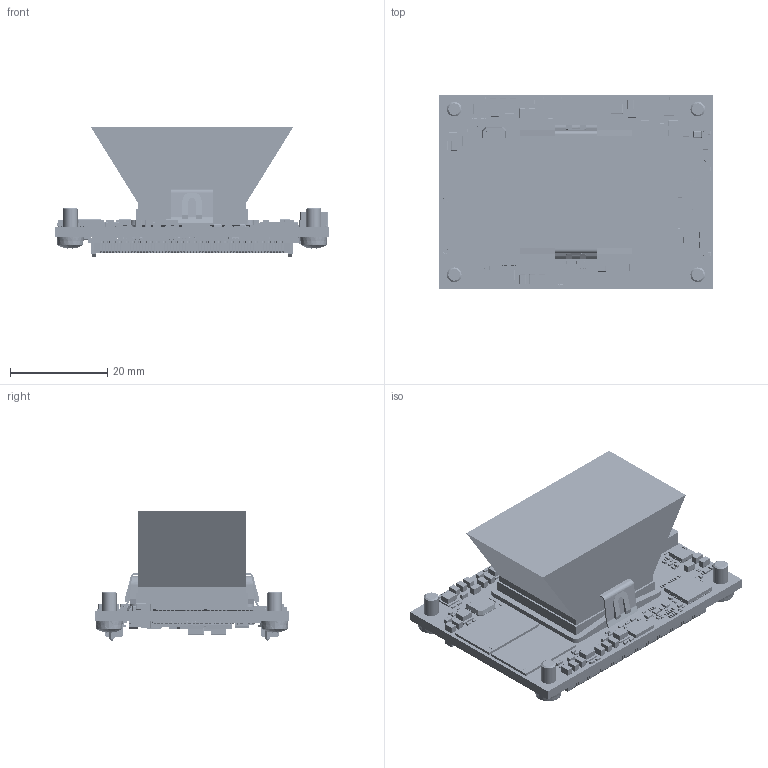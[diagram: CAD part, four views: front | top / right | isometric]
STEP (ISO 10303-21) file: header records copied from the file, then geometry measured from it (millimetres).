
FILE_DESCRIPTION(('Open CASCADE Model'),'2;1');
FILE_NAME('Open CASCADE Shape Model','2025-01-23T15:11:33',('Author'),( 'Open CASCADE'),'Open CASCADE STEP processor 7.5','Open CASCADE 7.5' ,'Unknown');
FILE_SCHEMA(('AUTOMOTIVE_DESIGN { 1 0 10303 214 1 1 1 1 }'));
Length unit declared in the file: millimetre
Products named in the file (724): PCB; Board=projectname; Open CASCADE STEP translator 7.5 1.1.1; R170=projectname; RES_0603-0201; R168=projectname; R106=projectname; C194=projectname; User Library-SMD CAPACITOR0402; R53=projectname; C171=projectname; R48=projectname; C39=projectname; User Library-SMD 0201 CAPACITOR; C35=projectname; C219=projectname; 7166302928; C218=projectname; C207=projectname; 5725524032; C206=projectname; C200=projectname; 5725520192; C199=projectname; C193=projectname; C192=projectname; C66=projectname; C65=projectname; C52=projectname; 5725517152; C51=projectname; C49=projectname; C48=projectname; R120=projectname; R119=projectname; R118=projectname; R117=projectname; T5=projectname; SW3dPS-SOT-563; 7806454832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
Assembly tree (1269 placements, depth 4):
  PCB
    Board=projectname
      Open CASCADE STEP translator 7.5 1.1.1
    R170=projectname
      RES_0603-0201
    R168=projectname
      RES_0603-0201
    R106=projectname
      RES_0603-0201
    C194=projectname
      User Library-SMD CAPACITOR0402
    R53=projectname
      RES_0603-0201
    C171=projectname
      User Library-SMD CAPACITOR0402
    R48=projectname
      RES_0603-0201
    C39=projectname
      User Library-SMD 0201 CAPACITOR
    C35=projectname
      User Library-SMD 0201 CAPACITOR
    C219=projectname
      7166302928
    C218=projectname
      7166302928
    C207=projectname
      5725524032
    C206=projectname
      5725524032
    C200=projectname
      5725520192
    C199=projectname
      5725520192
    C193=projectname
      5725524032
    C192=projectname
      5725520192
    C66=projectname
      7166302928
    C65=projectname
      7166302928
    C52=projectname
      5725517152
    C51=projectname
      5725520192
    C49=projectname
      5725520192
    C48=projectname
      5725520192
    R120=projectname
      RES_0603-0201
    R119=projectname
      RES_0603-0201
    R118=projectname
      RES_0603-0201
    R117=projectname
      RES_0603-0201
    T5=projectname
      SW3dPS-SOT-563
      7806454832
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Bounding box: 56.4 x 40 x 26.57 mm (x, y, z)
Volume: 22321.4 mm3; surface area: 21895.5 mm2
Topology: 2228 solids, 2232 shells, 46889 faces, 117051 edges, 71936 vertices
Faces by surface type: plane 29967, cylinder 11149, sphere 4582, bspline 1119, torus 42, cone 30
Full cylindrical faces by diameter (mm): 0.4 x12, 0.8 x3, 1 x6, 3.2 x4
Entity records: 482235 total; most frequent: CARTESIAN_POINT 91029, ORIENTED_EDGE 62830, DIRECTION 58182, EDGE_CURVE 31415, LINE 24096, VECTOR 24096, VERTEX_POINT 21342, AXIS2_PLACEMENT_3D 17043
